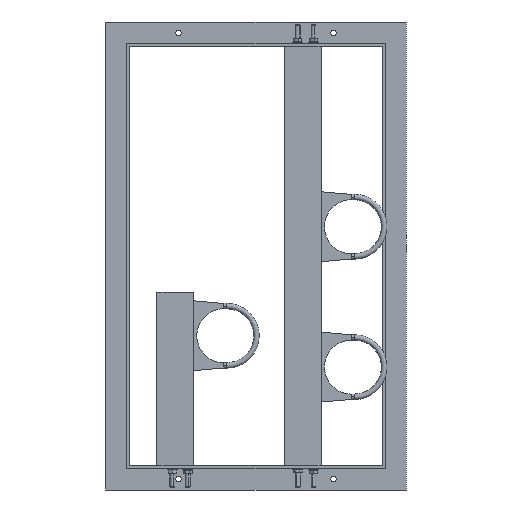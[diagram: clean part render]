
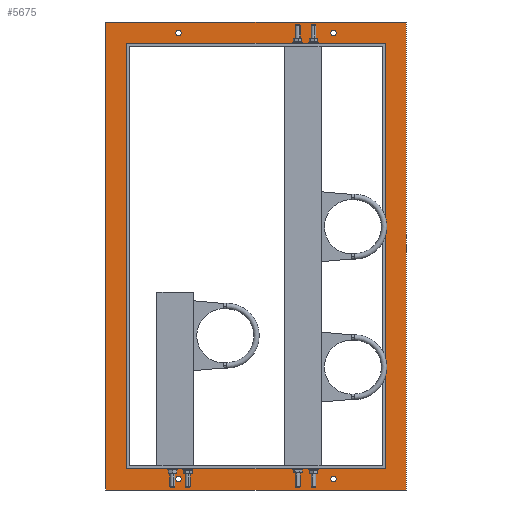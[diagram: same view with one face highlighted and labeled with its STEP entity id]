
A CAD part, front view. The second image highlights one B-rep face of the part: STEP entity #5675.
In plain terms, the highlighted planar face has unit normal (0, -1, 0).
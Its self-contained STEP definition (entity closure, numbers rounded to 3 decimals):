
#539 = VERTEX_POINT ( 'NONE', #6223 ) ;
#545 = VERTEX_POINT ( 'NONE', #5633 ) ;
#550 = VERTEX_POINT ( 'NONE', #5621 ) ;
#602 = VERTEX_POINT ( 'NONE', #5421 ) ;
#612 = VERTEX_POINT ( 'NONE', #5401 ) ;
#657 = VERTEX_POINT ( 'NONE', #5337 ) ;
#706 = VERTEX_POINT ( 'NONE', #5272 ) ;
#771 = VERTEX_POINT ( 'NONE', #5188 ) ;
#773 = VERTEX_POINT ( 'NONE', #5186 ) ;
#777 = VERTEX_POINT ( 'NONE', #5182 ) ;
#788 = VERTEX_POINT ( 'NONE', #5171 ) ;
#797 = VERTEX_POINT ( 'NONE', #5162 ) ;
#808 = VERTEX_POINT ( 'NONE', #5151 ) ;
#818 = VERTEX_POINT ( 'NONE', #5141 ) ;
#871 = VERTEX_POINT ( 'NONE', #5088 ) ;
#881 = VERTEX_POINT ( 'NONE', #5078 ) ;
#1791 = LINE ( 'NONE', #4223, #1793 ) ;
#1793 = VECTOR ( 'NONE', #4220, 1000. ) ;
#1816 = LINE ( 'NONE', #4156, #1818 ) ;
#1818 = VECTOR ( 'NONE', #4149, 1000. ) ;
#1862 = LINE ( 'NONE', #17183, #1871 ) ;
#1871 = VECTOR ( 'NONE', #17170, 1000. ) ;
#2574 = ORIENTED_EDGE ( 'NONE', *, *, #16210, .T. ) ;
#2575 = ORIENTED_EDGE ( 'NONE', *, *, #16208, .T. ) ;
#2576 = ORIENTED_EDGE ( 'NONE', *, *, #16204, .T. ) ;
#2577 = ORIENTED_EDGE ( 'NONE', *, *, #16163, .F. ) ;
#2578 = ORIENTED_EDGE ( 'NONE', *, *, #16669, .T. ) ;
#2579 = ORIENTED_EDGE ( 'NONE', *, *, #16509, .T. ) ;
#2582 = ORIENTED_EDGE ( 'NONE', *, *, #16918, .T. ) ;
#2583 = ORIENTED_EDGE ( 'NONE', *, *, #16213, .T. ) ;
#2584 = ORIENTED_EDGE ( 'NONE', *, *, #16550, .T. ) ;
#2585 = ORIENTED_EDGE ( 'NONE', *, *, #22159, .F. ) ;
#2586 = ORIENTED_EDGE ( 'NONE', *, *, #16146, .T. ) ;
#2587 = ORIENTED_EDGE ( 'NONE', *, *, #22201, .F. ) ;
#2588 = ORIENTED_EDGE ( 'NONE', *, *, #22145, .F. ) ;
#2595 = ORIENTED_EDGE ( 'NONE', *, *, #16111, .T. ) ;
#2596 = ORIENTED_EDGE ( 'NONE', *, *, #16094, .T. ) ;
#2597 = ORIENTED_EDGE ( 'NONE', *, *, #16218, .T. ) ;
#3729 = FACE_BOUND ( 'NONE', #23274, .T. ) ;
#3730 = FACE_BOUND ( 'NONE', #23379, .T. ) ;
#3731 = FACE_BOUND ( 'NONE', #23456, .T. ) ;
#3732 = FACE_BOUND ( 'NONE', #23217, .T. ) ;
#3733 = FACE_BOUND ( 'NONE', #23213, .T. ) ;
#3734 = FACE_OUTER_BOUND ( 'NONE', #23372, .T. ) ;
#4149 = DIRECTION ( 'NONE',  ( 1., 0., 0. ) ) ;
#4156 = CARTESIAN_POINT ( 'NONE',  ( -208.644, 12.965, -350.652 ) ) ;
#4220 = DIRECTION ( 'NONE',  ( 0., 0., 1. ) ) ;
#4223 = CARTESIAN_POINT ( 'NONE',  ( -243.644, 12.965, -498.789 ) ) ;
#4431 = DIRECTION ( 'NONE',  ( 1., 0., 0. ) ) ;
#4432 = DIRECTION ( 'NONE',  ( 0., -1., 0. ) ) ;
#4433 = CARTESIAN_POINT ( 'NONE',  ( -208.644, 12.965, -498.789 ) ) ;
#4469 = PLANE ( 'NONE',  #15182 ) ;
#5078 = CARTESIAN_POINT ( 'NONE',  ( -123.644, 12.965, 361.848 ) ) ;
#5088 = CARTESIAN_POINT ( 'NONE',  ( -123.644, 12.965, 370.848 ) ) ;
#5141 = CARTESIAN_POINT ( 'NONE',  ( -123.644, 12.965, -372.152 ) ) ;
#5151 = CARTESIAN_POINT ( 'NONE',  ( 131.356, 12.965, 361.848 ) ) ;
#5162 = CARTESIAN_POINT ( 'NONE',  ( 131.356, 12.965, -372.152 ) ) ;
#5171 = CARTESIAN_POINT ( 'NONE',  ( -123.644, 12.965, -363.152 ) ) ;
#5182 = CARTESIAN_POINT ( 'NONE',  ( 131.356, 12.965, 370.848 ) ) ;
#5186 = CARTESIAN_POINT ( 'NONE',  ( 251.356, 12.965, 384.348 ) ) ;
#5188 = CARTESIAN_POINT ( 'NONE',  ( 251.356, 12.965, -385.652 ) ) ;
#5272 = CARTESIAN_POINT ( 'NONE',  ( -243.644, 12.965, 384.348 ) ) ;
#5337 = CARTESIAN_POINT ( 'NONE',  ( -208.644, 12.965, 349.348 ) ) ;
#5401 = CARTESIAN_POINT ( 'NONE',  ( -243.644, 12.965, -385.652 ) ) ;
#5421 = CARTESIAN_POINT ( 'NONE',  ( 216.356, 12.965, 349.348 ) ) ;
#5621 = CARTESIAN_POINT ( 'NONE',  ( 216.356, 12.965, -350.652 ) ) ;
#5633 = CARTESIAN_POINT ( 'NONE',  ( -208.644, 12.965, -350.652 ) ) ;
#5675 = ADVANCED_FACE ( 'NONE', ( #3729, #3733, #3730, #3732, #3731, #3734 ), #4469, .T. ) ;
#6223 = CARTESIAN_POINT ( 'NONE',  ( 131.356, 12.965, -363.152 ) ) ;
#7640 = AXIS2_PLACEMENT_3D ( 'NONE', #12926, #12925, #12924 ) ;
#7736 = AXIS2_PLACEMENT_3D ( 'NONE', #9721, #9720, #9719 ) ;
#7777 = AXIS2_PLACEMENT_3D ( 'NONE', #13586, #13585, #13584 ) ;
#7792 = AXIS2_PLACEMENT_3D ( 'NONE', #13779, #13778, #13777 ) ;
#7815 = AXIS2_PLACEMENT_3D ( 'NONE', #14104, #14102, #14100 ) ;
#7817 = AXIS2_PLACEMENT_3D ( 'NONE', #14124, #14123, #14121 ) ;
#7818 = AXIS2_PLACEMENT_3D ( 'NONE', #14136, #14135, #14132 ) ;
#7831 = AXIS2_PLACEMENT_3D ( 'NONE', #14491, #14490, #14489 ) ;
#9719 = DIRECTION ( 'NONE',  ( 1., 0., 0. ) ) ;
#9720 = DIRECTION ( 'NONE',  ( 0., 1., 0. ) ) ;
#9721 = CARTESIAN_POINT ( 'NONE',  ( 131.356, 12.965, 366.348 ) ) ;
#12924 = DIRECTION ( 'NONE',  ( 1., 0., 0. ) ) ;
#12925 = DIRECTION ( 'NONE',  ( 0., 1., 0. ) ) ;
#12926 = CARTESIAN_POINT ( 'NONE',  ( -123.644, 12.965, -367.652 ) ) ;
#13584 = DIRECTION ( 'NONE',  ( 1., 0., 0. ) ) ;
#13585 = DIRECTION ( 'NONE',  ( 0., 1., 0. ) ) ;
#13586 = CARTESIAN_POINT ( 'NONE',  ( 131.356, 12.965, -367.652 ) ) ;
#13663 = CARTESIAN_POINT ( 'NONE',  ( 251.356, 12.965, -385.652 ) ) ;
#13777 = DIRECTION ( 'NONE',  ( 1., 0., 0. ) ) ;
#13778 = DIRECTION ( 'NONE',  ( 0., 1., 0. ) ) ;
#13779 = CARTESIAN_POINT ( 'NONE',  ( 131.356, 12.965, 366.348 ) ) ;
#14077 = CARTESIAN_POINT ( 'NONE',  ( -243.644, 12.965, -385.652 ) ) ;
#14081 = DIRECTION ( 'NONE',  ( 1., 0., 0. ) ) ;
#14100 = DIRECTION ( 'NONE',  ( 1., 0., 0. ) ) ;
#14102 = DIRECTION ( 'NONE',  ( 0., 1., 0. ) ) ;
#14104 = CARTESIAN_POINT ( 'NONE',  ( -123.644, 12.965, -367.652 ) ) ;
#14121 = DIRECTION ( 'NONE',  ( 1., 0., 0. ) ) ;
#14123 = DIRECTION ( 'NONE',  ( 0., 1., 0. ) ) ;
#14124 = CARTESIAN_POINT ( 'NONE',  ( 131.356, 12.965, -367.652 ) ) ;
#14132 = DIRECTION ( 'NONE',  ( 1., 0., 0. ) ) ;
#14135 = DIRECTION ( 'NONE',  ( 0., 1., 0. ) ) ;
#14136 = CARTESIAN_POINT ( 'NONE',  ( -123.644, 12.965, 366.348 ) ) ;
#14164 = DIRECTION ( 'NONE',  ( 0., 0., 1. ) ) ;
#14185 = CARTESIAN_POINT ( 'NONE',  ( -208.644, 12.965, -498.789 ) ) ;
#14388 = CARTESIAN_POINT ( 'NONE',  ( 216.356, 12.965, -350.652 ) ) ;
#14394 = DIRECTION ( 'NONE',  ( 0., 0., 1. ) ) ;
#14418 = DIRECTION ( 'NONE',  ( 0., 0., 1. ) ) ;
#14489 = DIRECTION ( 'NONE',  ( 1., 0., 0. ) ) ;
#14490 = DIRECTION ( 'NONE',  ( 0., 1., 0. ) ) ;
#14491 = CARTESIAN_POINT ( 'NONE',  ( -123.644, 12.965, 366.348 ) ) ;
#14651 = DIRECTION ( 'NONE',  ( -1., 0., 0. ) ) ;
#14658 = CARTESIAN_POINT ( 'NONE',  ( 251.356, 12.965, 384.348 ) ) ;
#15182 = AXIS2_PLACEMENT_3D ( 'NONE', #4433, #4432, #4431 ) ;
#16094 = EDGE_CURVE ( 'NONE', #771, #773, #20112, .T. ) ;
#16111 = EDGE_CURVE ( 'NONE', #773, #706, #20161, .T. ) ;
#16146 = EDGE_CURVE ( 'NONE', #881, #871, #20256, .T. ) ;
#16163 = EDGE_CURVE ( 'NONE', #550, #602, #20302, .T. ) ;
#16204 = EDGE_CURVE ( 'NONE', #545, #657, #20371, .T. ) ;
#16208 = EDGE_CURVE ( 'NONE', #871, #881, #20375, .T. ) ;
#16210 = EDGE_CURVE ( 'NONE', #539, #797, #20381, .T. ) ;
#16213 = EDGE_CURVE ( 'NONE', #788, #818, #20386, .T. ) ;
#16218 = EDGE_CURVE ( 'NONE', #612, #771, #20391, .T. ) ;
#16509 = EDGE_CURVE ( 'NONE', #777, #808, #20462, .T. ) ;
#16550 = EDGE_CURVE ( 'NONE', #797, #539, #20509, .T. ) ;
#16669 = EDGE_CURVE ( 'NONE', #808, #777, #19335, .T. ) ;
#16918 = EDGE_CURVE ( 'NONE', #818, #788, #19659, .T. ) ;
#17170 = DIRECTION ( 'NONE',  ( -1., 0., 0. ) ) ;
#17183 = CARTESIAN_POINT ( 'NONE',  ( 216.356, 12.965, 349.348 ) ) ;
#19335 = CIRCLE ( 'NONE', #7736, 4.5 ) ;
#19659 = CIRCLE ( 'NONE', #7640, 4.5 ) ;
#20112 = LINE ( 'NONE', #13663, #20126 ) ;
#20126 = VECTOR ( 'NONE', #14418, 1000. ) ;
#20161 = LINE ( 'NONE', #14658, #20169 ) ;
#20169 = VECTOR ( 'NONE', #14651, 1000. ) ;
#20256 = CIRCLE ( 'NONE', #7831, 4.5 ) ;
#20302 = LINE ( 'NONE', #14388, #20310 ) ;
#20310 = VECTOR ( 'NONE', #14394, 1000. ) ;
#20371 = LINE ( 'NONE', #14185, #20378 ) ;
#20375 = CIRCLE ( 'NONE', #7818, 4.5 ) ;
#20378 = VECTOR ( 'NONE', #14164, 1000. ) ;
#20381 = CIRCLE ( 'NONE', #7817, 4.5 ) ;
#20386 = CIRCLE ( 'NONE', #7815, 4.5 ) ;
#20391 = LINE ( 'NONE', #14077, #20395 ) ;
#20395 = VECTOR ( 'NONE', #14081, 1000. ) ;
#20462 = CIRCLE ( 'NONE', #7792, 4.5 ) ;
#20509 = CIRCLE ( 'NONE', #7777, 4.5 ) ;
#22145 = EDGE_CURVE ( 'NONE', #612, #706, #1791, .T. ) ;
#22159 = EDGE_CURVE ( 'NONE', #545, #550, #1816, .T. ) ;
#22201 = EDGE_CURVE ( 'NONE', #602, #657, #1862, .T. ) ;
#23213 = EDGE_LOOP ( 'NONE', ( #2574, #2584 ) ) ;
#23217 = EDGE_LOOP ( 'NONE', ( #2575, #2586 ) ) ;
#23274 = EDGE_LOOP ( 'NONE', ( #2579, #2578 ) ) ;
#23372 = EDGE_LOOP ( 'NONE', ( #2588, #2597, #2596, #2595 ) ) ;
#23379 = EDGE_LOOP ( 'NONE', ( #2583, #2582 ) ) ;
#23456 = EDGE_LOOP ( 'NONE', ( #2585, #2576, #2587, #2577 ) ) ;
